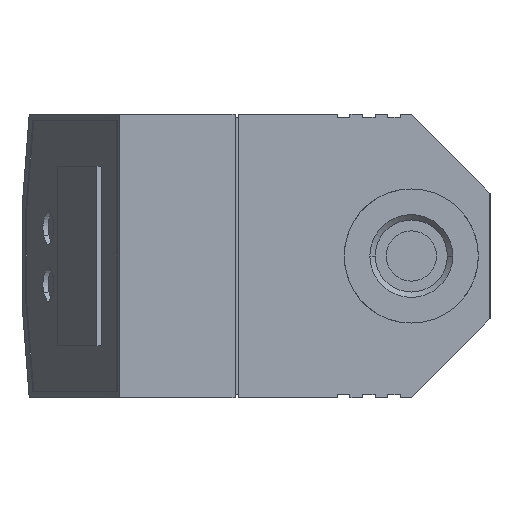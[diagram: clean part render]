
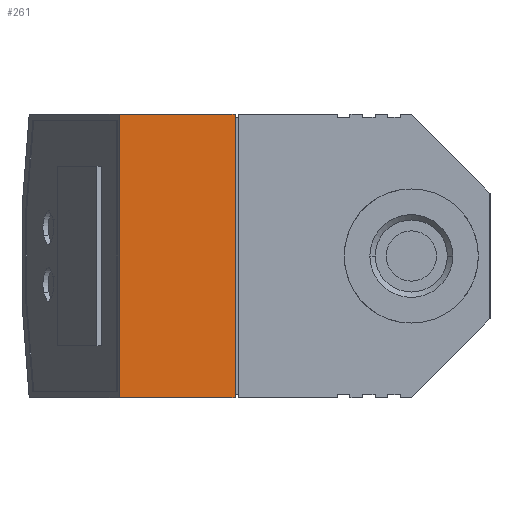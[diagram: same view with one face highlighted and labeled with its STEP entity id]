
A CAD part, left-side view. The second image highlights one B-rep face of the part: STEP entity #261.
In plain terms, the highlighted planar face has unit normal (-1, 0, 0).
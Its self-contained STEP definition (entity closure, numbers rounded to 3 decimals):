
#261 = ADVANCED_FACE( '', ( #688 ), #689, .F. );
#688 = FACE_OUTER_BOUND( '', #1156, .T. );
#689 = PLANE( '', #1157 );
#1156 = EDGE_LOOP( '', ( #2796, #2797, #2798, #2799 ) );
#1157 = AXIS2_PLACEMENT_3D( '', #2800, #2801, #2802 );
#2796 = ORIENTED_EDGE( '', *, *, #3604, .T. );
#2797 = ORIENTED_EDGE( '', *, *, #3613, .F. );
#2798 = ORIENTED_EDGE( '', *, *, #3606, .F. );
#2799 = ORIENTED_EDGE( '', *, *, #3597, .F. );
#2800 = CARTESIAN_POINT( '', ( 0., 0., 0. ) );
#2801 = DIRECTION( '', ( 1., 0., 0. ) );
#2802 = DIRECTION( '', ( 0., 0., -1. ) );
#3597 = EDGE_CURVE( '', #4539, #4541, #4542, .T. );
#3604 = EDGE_CURVE( '', #4539, #4550, #4552, .T. );
#3606 = EDGE_CURVE( '', #4541, #4555, #4556, .T. );
#3613 = EDGE_CURVE( '', #4555, #4550, #4567, .T. );
#4539 = VERTEX_POINT( '', #6494 );
#4541 = VERTEX_POINT( '', #6497 );
#4542 = LINE( '', #6498, #6499 );
#4550 = VERTEX_POINT( '', #6511 );
#4552 = LINE( '', #6514, #6515 );
#4555 = VERTEX_POINT( '', #6519 );
#4556 = LINE( '', #6520, #6521 );
#4567 = LINE( '', #6538, #6539 );
#6494 = CARTESIAN_POINT( '', ( 0., 46.412, 22.5 ) );
#6497 = CARTESIAN_POINT( '', ( 0., 28., 22.5 ) );
#6498 = CARTESIAN_POINT( '', ( 0., 57.235, 22.5 ) );
#6499 = VECTOR( '', #7638, 1. );
#6511 = CARTESIAN_POINT( '', ( 0., 46.412, -22.5 ) );
#6514 = CARTESIAN_POINT( '', ( 0., 46.412, 25. ) );
#6515 = VECTOR( '', #7647, 1. );
#6519 = CARTESIAN_POINT( '', ( 0., 28., -22.5 ) );
#6520 = CARTESIAN_POINT( '', ( 0., 28., 22.5 ) );
#6521 = VECTOR( '', #7649, 1. );
#6538 = CARTESIAN_POINT( '', ( 0., 28., -22.5 ) );
#6539 = VECTOR( '', #7656, 1. );
#7638 = DIRECTION( '', ( 0., -1., 0. ) );
#7647 = DIRECTION( '', ( 0., 0., -1. ) );
#7649 = DIRECTION( '', ( 0., 0., -1. ) );
#7656 = DIRECTION( '', ( 0., 1., 0. ) );
